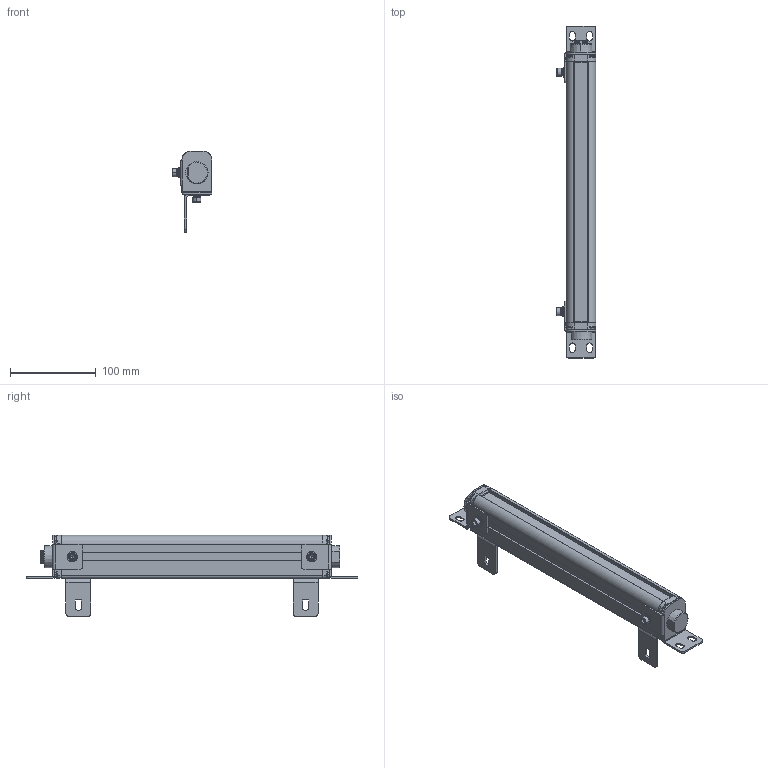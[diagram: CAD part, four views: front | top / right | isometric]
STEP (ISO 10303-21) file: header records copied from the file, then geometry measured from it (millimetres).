
FILE_DESCRIPTION((''),'2;1');
FILE_NAME('ESN--000_ASM','2021-08-10T21:12:13',('18720616900'),(''),'CREO PARAMETRIC BY PTC INC, 2019010','CREO PARAMETRIC BY PTC INC, 2019010','');
FILE_SCHEMA(('CONFIG_CONTROL_DESIGN'));
Products named in the file (22): 00; 000; _0002; _0003; _0004; 5000; 5--0001; ESN_50001_ASM; ST-3-120001; L10001; M6-8--0001; M6-1--00; M6-1-00; M6-80001_ASM; L1--0001_ASM; H1--000; H1--0003_ASM; H1--0001_ASM; ESN--000_ASM
Assembly tree (35 placements, depth 4):
  ESN--000_ASM
    00
    000
    _0002
    _0003
    _0004
    000
    ESN_50001_ASM
      5000
      5--0001  x5
    ST-3-120001  x8
    L1--0001_ASM  x2
      L10001
      M6-80001_ASM
        M6-8--0001
        M6-1--00
        M6-1-00
        00
    H1--0003_ASM
      H1--000
      M6-80001_ASM
        M6-8--0001
        M6-1--00
        M6-1-00
        00
    H1--0001_ASM
      H1--000
      M6-80001_ASM
        M6-8--0001
        M6-1--00
        M6-1-00
        00
Bounding box: 46.5 x 387 x 94.95 mm (x, y, z)
Volume: 510434.1 mm3; surface area: 137686.2 mm2
Topology: 40 solids, 40 shells, 1785 faces, 4708 edges, 3012 vertices
Faces by surface type: plane 583, cylinder 416, bspline 362, cone 291, torus 107, sphere 26
Entity records: 48222 total; most frequent: CARTESIAN_POINT 24957, ORIENTED_EDGE 5136, DIRECTION 4189, EDGE_CURVE 2568, VERTEX_POINT 1669, AXIS2_PLACEMENT_3D 1488, VECTOR 1213, LINE 1213
